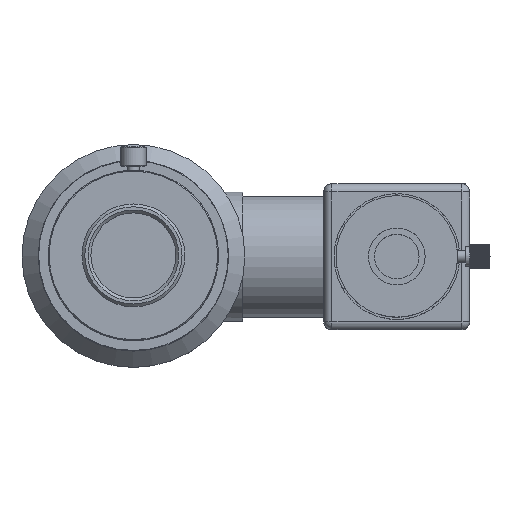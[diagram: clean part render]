
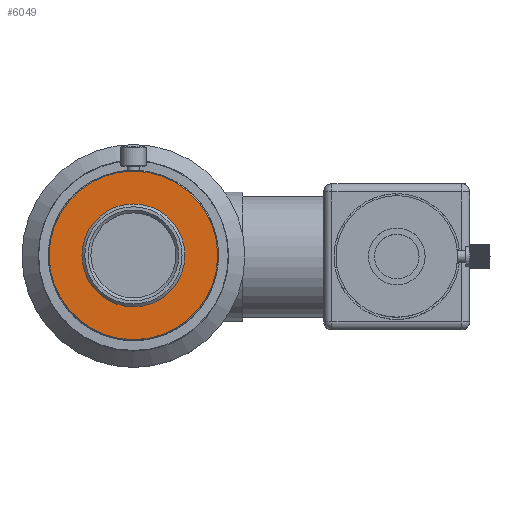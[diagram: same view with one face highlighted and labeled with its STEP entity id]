
A CAD part, top view. The second image highlights one B-rep face of the part: STEP entity #6049.
In plain terms, the highlighted planar face has unit normal (0, 0, 1).
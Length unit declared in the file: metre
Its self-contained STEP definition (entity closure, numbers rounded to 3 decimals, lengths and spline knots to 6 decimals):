
#6049=ADVANCED_FACE('42:31139',(#17659,#17660),#17661,.T.);
#10939=EDGE_CURVE('0:28761',#24933,#24933,#24934,.T.);
#10941=EDGE_CURVE('0:28746',#24936,#24936,#24937,.T.);
#17659=FACE_BOUND('',#33439,.T.);
#17660=FACE_OUTER_BOUND('',#33440,.T.);
#17661=PLANE('',#33441);
#24933=VERTEX_POINT('',#49348);
#24934=CIRCLE('',#49349,0.0121);
#24936=VERTEX_POINT('',#49352);
#24937=CIRCLE('',#49353,0.0208);
#33439=EDGE_LOOP('',(#65265));
#33440=EDGE_LOOP('',(#65266));
#33441=AXIS2_PLACEMENT_3D('',#65267,#65268,#65269);
#49348=CARTESIAN_POINT('',(0.0121,0.,0.221));
#49349=AXIS2_PLACEMENT_3D('',#74479,#74480,#74481);
#49352=CARTESIAN_POINT('',(0.0,-0.0208,0.221));
#49353=AXIS2_PLACEMENT_3D('',#74482,#74483,#74484);
#65265=ORIENTED_EDGE('',*,*,#10939,.F.);
#65266=ORIENTED_EDGE('',*,*,#10941,.T.);
#65267=CARTESIAN_POINT('',(0.0,0.,0.221));
#65268=DIRECTION('',(0.0,0.,1.0));
#65269=DIRECTION('',(0.0,-1.0,0.));
#74479=CARTESIAN_POINT('',(0.0,0.,0.221));
#74480=DIRECTION('',(0.0,0.,1.0));
#74481=DIRECTION('',(1.0,0.0,-0.0));
#74482=CARTESIAN_POINT('',(0.0,0.,0.221));
#74483=DIRECTION('',(0.0,0.,1.0));
#74484=DIRECTION('',(0.0,-1.0,0.));
